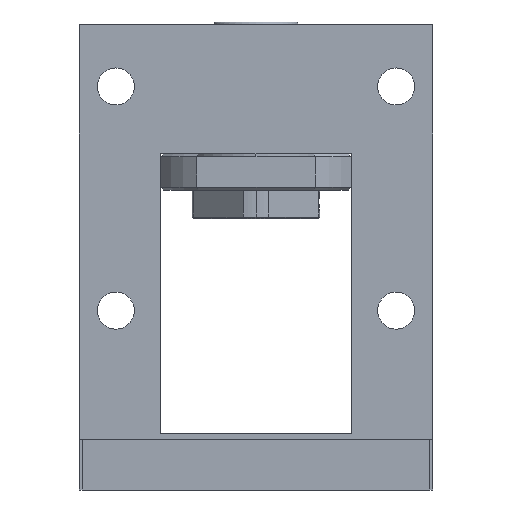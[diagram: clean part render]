
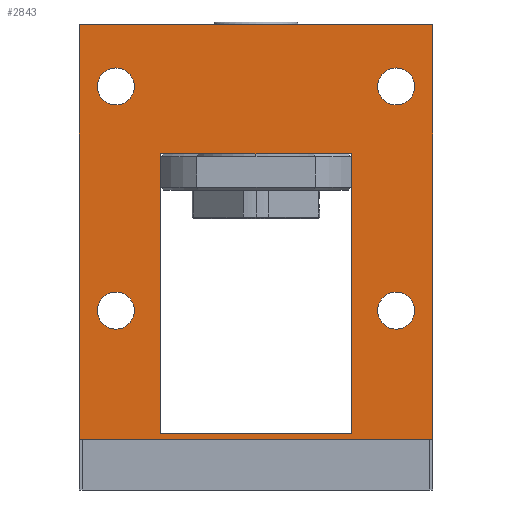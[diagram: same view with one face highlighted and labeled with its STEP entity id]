
A CAD part, front view. The second image highlights one B-rep face of the part: STEP entity #2843.
In plain terms, the highlighted planar face has unit normal (0, -1, 0).
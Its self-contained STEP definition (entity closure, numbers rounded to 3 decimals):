
#15 = ORIENTED_EDGE ( 'NONE', *, *, #5147, .T. ) ;
#83 = VERTEX_POINT ( 'NONE', #6284 ) ;
#127 = CIRCLE ( 'NONE', #4955, 3.3 ) ;
#401 = CARTESIAN_POINT ( 'NONE',  ( -17., -20., 13.623 ) ) ;
#548 = LINE ( 'NONE', #1154, #2227 ) ;
#563 = EDGE_LOOP ( 'NONE', ( #6400, #6432 ) ) ;
#636 = CARTESIAN_POINT ( 'NONE',  ( 25., -20., -46. ) ) ;
#738 = AXIS2_PLACEMENT_3D ( 'NONE', #636, #5056, #1295 ) ;
#787 = EDGE_LOOP ( 'NONE', ( #7733, #5872 ) ) ;
#809 = VECTOR ( 'NONE', #7459, 1000. ) ;
#933 = PLANE ( 'NONE',  #1912 ) ;
#949 = CARTESIAN_POINT ( 'NONE',  ( 31.5, -20., -68. ) ) ;
#960 = DIRECTION ( 'NONE',  ( 0., 0., 1. ) ) ;
#1003 = VERTEX_POINT ( 'NONE', #6591 ) ;
#1082 = DIRECTION ( 'NONE',  ( 0., 0., -1. ) ) ;
#1097 = DIRECTION ( 'NONE',  ( 0., 0., 1. ) ) ;
#1101 = EDGE_CURVE ( 'NONE', #83, #5212, #1758, .T. ) ;
#1131 = EDGE_CURVE ( 'NONE', #5242, #4225, #3044, .T. ) ;
#1154 = CARTESIAN_POINT ( 'NONE',  ( 17., -20., 13.623 ) ) ;
#1295 = DIRECTION ( 'NONE',  ( 0., 0., 1. ) ) ;
#1357 = VERTEX_POINT ( 'NONE', #5700 ) ;
#1375 = AXIS2_PLACEMENT_3D ( 'NONE', #2303, #6711, #2942 ) ;
#1383 = EDGE_CURVE ( 'NONE', #4225, #5242, #127, .T. ) ;
#1399 = FACE_BOUND ( 'NONE', #4622, .T. ) ;
#1421 = CIRCLE ( 'NONE', #2307, 3.3 ) ;
#1505 = EDGE_CURVE ( 'NONE', #6813, #2133, #7314, .T. ) ;
#1542 = CARTESIAN_POINT ( 'NONE',  ( -31.5, -20., -68. ) ) ;
#1593 = DIRECTION ( 'NONE',  ( 0., 0., -1. ) ) ;
#1624 = VERTEX_POINT ( 'NONE', #6036 ) ;
#1664 = VECTOR ( 'NONE', #6567, 1000. ) ;
#1727 = CARTESIAN_POINT ( 'NONE',  ( -25., -20., -2.7 ) ) ;
#1733 = CARTESIAN_POINT ( 'NONE',  ( -42.292, -20., -69. ) ) ;
#1752 = CARTESIAN_POINT ( 'NONE',  ( 25., -20., -49.3 ) ) ;
#1758 = CIRCLE ( 'NONE', #2591, 3.3 ) ;
#1856 = AXIS2_PLACEMENT_3D ( 'NONE', #2232, #6649, #2881 ) ;
#1882 = CARTESIAN_POINT ( 'NONE',  ( 17., -20., -68. ) ) ;
#1901 = AXIS2_PLACEMENT_3D ( 'NONE', #3317, #7721, #3938 ) ;
#1912 = AXIS2_PLACEMENT_3D ( 'NONE', #2173, #4723, #960 ) ;
#2037 = VERTEX_POINT ( 'NONE', #4474 ) ;
#2133 = VERTEX_POINT ( 'NONE', #7238 ) ;
#2173 = CARTESIAN_POINT ( 'NONE',  ( -51.828, -20., -68. ) ) ;
#2227 = VECTOR ( 'NONE', #4920, 1000. ) ;
#2232 = CARTESIAN_POINT ( 'NONE',  ( -25., -20., -6. ) ) ;
#2250 = EDGE_CURVE ( 'NONE', #6961, #2133, #4460, .T. ) ;
#2253 = EDGE_LOOP ( 'NONE', ( #15, #2678 ) ) ;
#2303 = CARTESIAN_POINT ( 'NONE',  ( -25., -20., -46. ) ) ;
#2307 = AXIS2_PLACEMENT_3D ( 'NONE', #7296, #3535, #7946 ) ;
#2552 = ORIENTED_EDGE ( 'NONE', *, *, #7895, .T. ) ;
#2591 = AXIS2_PLACEMENT_3D ( 'NONE', #7394, #6143, #1097 ) ;
#2592 = CIRCLE ( 'NONE', #1375, 3.3 ) ;
#2678 = ORIENTED_EDGE ( 'NONE', *, *, #7317, .T. ) ;
#2688 = DIRECTION ( 'NONE',  ( 1., 0., 0. ) ) ;
#2790 = VECTOR ( 'NONE', #3130, 1000. ) ;
#2843 = ADVANCED_FACE ( 'NONE', ( #4718, #6425, #8104, #3070, #1399, #7894 ), #933, .F. ) ;
#2881 = DIRECTION ( 'NONE',  ( 0., 0., 1. ) ) ;
#2942 = DIRECTION ( 'NONE',  ( 0., 0., 1. ) ) ;
#2971 = ORIENTED_EDGE ( 'NONE', *, *, #3749, .T. ) ;
#3044 = CIRCLE ( 'NONE', #3411, 3.3 ) ;
#3070 = FACE_BOUND ( 'NONE', #2253, .T. ) ;
#3130 = DIRECTION ( 'NONE',  ( -1., 0., 0. ) ) ;
#3317 = CARTESIAN_POINT ( 'NONE',  ( -25., -20., -46. ) ) ;
#3356 = CIRCLE ( 'NONE', #1856, 3.3 ) ;
#3391 = LINE ( 'NONE', #6275, #2790 ) ;
#3411 = AXIS2_PLACEMENT_3D ( 'NONE', #7278, #8131, #4337 ) ;
#3528 = EDGE_CURVE ( 'NONE', #3563, #7754, #3391, .T. ) ;
#3535 = DIRECTION ( 'NONE',  ( 0., 1., 0. ) ) ;
#3563 = VERTEX_POINT ( 'NONE', #4388 ) ;
#3749 = EDGE_CURVE ( 'NONE', #2037, #7849, #1421, .T. ) ;
#3938 = DIRECTION ( 'NONE',  ( 0., 0., 1. ) ) ;
#4225 = VERTEX_POINT ( 'NONE', #5291 ) ;
#4337 = DIRECTION ( 'NONE',  ( 0., 0., 1. ) ) ;
#4388 = CARTESIAN_POINT ( 'NONE',  ( 31.5, -20., 5. ) ) ;
#4460 = LINE ( 'NONE', #401, #7623 ) ;
#4472 = DIRECTION ( 'NONE',  ( 0., 1., 0. ) ) ;
#4474 = CARTESIAN_POINT ( 'NONE',  ( -25., -20., -9.3 ) ) ;
#4499 = DIRECTION ( 'NONE',  ( 0., 0., 1. ) ) ;
#4622 = EDGE_LOOP ( 'NONE', ( #7331, #2971 ) ) ;
#4640 = VECTOR ( 'NONE', #1593, 1000. ) ;
#4718 = FACE_BOUND ( 'NONE', #5773, .T. ) ;
#4723 = DIRECTION ( 'NONE',  ( 0., 1., 0. ) ) ;
#4847 = VERTEX_POINT ( 'NONE', #5959 ) ;
#4920 = DIRECTION ( 'NONE',  ( 0., 0., -1. ) ) ;
#4955 = AXIS2_PLACEMENT_3D ( 'NONE', #5763, #4472, #4499 ) ;
#5008 = EDGE_LOOP ( 'NONE', ( #6542, #5130, #7755, #7502 ) ) ;
#5056 = DIRECTION ( 'NONE',  ( 0., 1., 0. ) ) ;
#5078 = EDGE_CURVE ( 'NONE', #3563, #6123, #6342, .T. ) ;
#5130 = ORIENTED_EDGE ( 'NONE', *, *, #6659, .F. ) ;
#5147 = EDGE_CURVE ( 'NONE', #1624, #1003, #2592, .T. ) ;
#5212 = VERTEX_POINT ( 'NONE', #1752 ) ;
#5242 = VERTEX_POINT ( 'NONE', #6828 ) ;
#5286 = LINE ( 'NONE', #1733, #6785 ) ;
#5291 = CARTESIAN_POINT ( 'NONE',  ( 25., -20., -2.7 ) ) ;
#5305 = CIRCLE ( 'NONE', #738, 3.3 ) ;
#5615 = ORIENTED_EDGE ( 'NONE', *, *, #6345, .T. ) ;
#5673 = EDGE_CURVE ( 'NONE', #5212, #83, #5305, .T. ) ;
#5700 = CARTESIAN_POINT ( 'NONE',  ( 17., -20., -18. ) ) ;
#5763 = CARTESIAN_POINT ( 'NONE',  ( 25., -20., -6. ) ) ;
#5773 = EDGE_LOOP ( 'NONE', ( #2552, #7864, #7098, #5615 ) ) ;
#5872 = ORIENTED_EDGE ( 'NONE', *, *, #1131, .T. ) ;
#5918 = EDGE_CURVE ( 'NONE', #7849, #2037, #3356, .T. ) ;
#5959 = CARTESIAN_POINT ( 'NONE',  ( -31.5, -20., -69. ) ) ;
#6002 = VECTOR ( 'NONE', #2688, 1000. ) ;
#6036 = CARTESIAN_POINT ( 'NONE',  ( -25., -20., -42.7 ) ) ;
#6057 = CARTESIAN_POINT ( 'NONE',  ( -31.5, -20., 5. ) ) ;
#6123 = VERTEX_POINT ( 'NONE', #6167 ) ;
#6143 = DIRECTION ( 'NONE',  ( 0., 1., 0. ) ) ;
#6167 = CARTESIAN_POINT ( 'NONE',  ( 31.5, -20., -69. ) ) ;
#6275 = CARTESIAN_POINT ( 'NONE',  ( -51.828, -20., 5. ) ) ;
#6284 = CARTESIAN_POINT ( 'NONE',  ( 25., -20., -42.7 ) ) ;
#6342 = LINE ( 'NONE', #949, #4640 ) ;
#6345 = EDGE_CURVE ( 'NONE', #6961, #1357, #7686, .T. ) ;
#6400 = ORIENTED_EDGE ( 'NONE', *, *, #1101, .T. ) ;
#6425 = FACE_BOUND ( 'NONE', #563, .T. ) ;
#6432 = ORIENTED_EDGE ( 'NONE', *, *, #5673, .T. ) ;
#6451 = EDGE_CURVE ( 'NONE', #4847, #7754, #7090, .T. ) ;
#6542 = ORIENTED_EDGE ( 'NONE', *, *, #6451, .F. ) ;
#6567 = DIRECTION ( 'NONE',  ( 0., 0., 1. ) ) ;
#6591 = CARTESIAN_POINT ( 'NONE',  ( -25., -20., -49.3 ) ) ;
#6649 = DIRECTION ( 'NONE',  ( 0., 1., 0. ) ) ;
#6659 = EDGE_CURVE ( 'NONE', #6123, #4847, #5286, .T. ) ;
#6711 = DIRECTION ( 'NONE',  ( 0., 1., 0. ) ) ;
#6785 = VECTOR ( 'NONE', #8022, 1000. ) ;
#6813 = VERTEX_POINT ( 'NONE', #1882 ) ;
#6828 = CARTESIAN_POINT ( 'NONE',  ( 25., -20., -9.3 ) ) ;
#6961 = VERTEX_POINT ( 'NONE', #7920 ) ;
#7090 = LINE ( 'NONE', #1542, #1664 ) ;
#7098 = ORIENTED_EDGE ( 'NONE', *, *, #2250, .F. ) ;
#7207 = CARTESIAN_POINT ( 'NONE',  ( -42.292, -20., -68. ) ) ;
#7238 = CARTESIAN_POINT ( 'NONE',  ( -17., -20., -68. ) ) ;
#7278 = CARTESIAN_POINT ( 'NONE',  ( 25., -20., -6. ) ) ;
#7296 = CARTESIAN_POINT ( 'NONE',  ( -25., -20., -6. ) ) ;
#7314 = LINE ( 'NONE', #7207, #809 ) ;
#7317 = EDGE_CURVE ( 'NONE', #1003, #1624, #7670, .T. ) ;
#7331 = ORIENTED_EDGE ( 'NONE', *, *, #5918, .T. ) ;
#7394 = CARTESIAN_POINT ( 'NONE',  ( 25., -20., -46. ) ) ;
#7459 = DIRECTION ( 'NONE',  ( -1., 0., 0. ) ) ;
#7502 = ORIENTED_EDGE ( 'NONE', *, *, #3528, .T. ) ;
#7623 = VECTOR ( 'NONE', #1082, 1000. ) ;
#7670 = CIRCLE ( 'NONE', #1901, 3.3 ) ;
#7686 = LINE ( 'NONE', #7723, #6002 ) ;
#7721 = DIRECTION ( 'NONE',  ( 0., 1., 0. ) ) ;
#7723 = CARTESIAN_POINT ( 'NONE',  ( 17., -20., -18. ) ) ;
#7733 = ORIENTED_EDGE ( 'NONE', *, *, #1383, .T. ) ;
#7754 = VERTEX_POINT ( 'NONE', #6057 ) ;
#7755 = ORIENTED_EDGE ( 'NONE', *, *, #5078, .F. ) ;
#7849 = VERTEX_POINT ( 'NONE', #1727 ) ;
#7864 = ORIENTED_EDGE ( 'NONE', *, *, #1505, .T. ) ;
#7894 = FACE_OUTER_BOUND ( 'NONE', #5008, .T. ) ;
#7895 = EDGE_CURVE ( 'NONE', #1357, #6813, #548, .T. ) ;
#7920 = CARTESIAN_POINT ( 'NONE',  ( -17., -20., -18. ) ) ;
#7946 = DIRECTION ( 'NONE',  ( 0., 0., 1. ) ) ;
#8022 = DIRECTION ( 'NONE',  ( -1., 0., 0. ) ) ;
#8104 = FACE_BOUND ( 'NONE', #787, .T. ) ;
#8131 = DIRECTION ( 'NONE',  ( 0., 1., 0. ) ) ;
